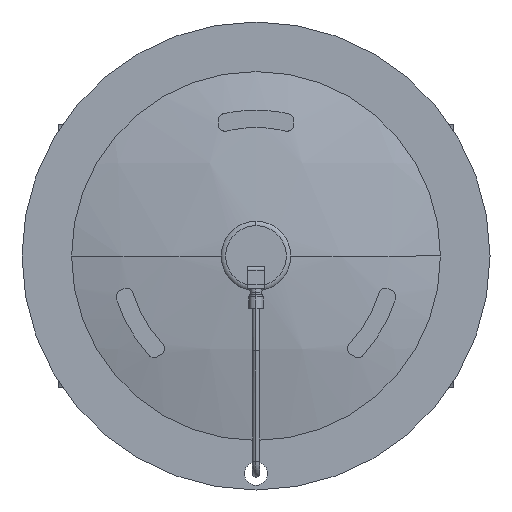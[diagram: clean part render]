
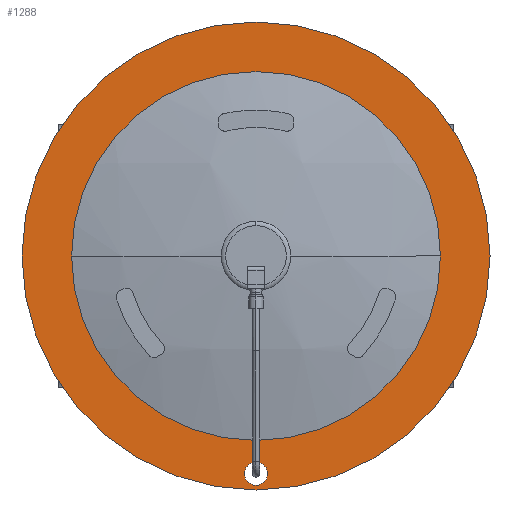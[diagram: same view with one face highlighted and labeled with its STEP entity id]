
A CAD part, front view. The second image highlights one B-rep face of the part: STEP entity #1288.
In plain terms, the highlighted planar face has unit normal (0, -1, 0).
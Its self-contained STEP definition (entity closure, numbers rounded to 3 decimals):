
#278 = CIRCLE ( 'NONE', #8124, 10. ) ;
#292 = CARTESIAN_POINT ( 'NONE',  ( -200.5, -271.3, 0. ) ) ;
#299 = AXIS2_PLACEMENT_3D ( 'NONE', #6845, #6979, #11181 ) ;
#1012 = ORIENTED_EDGE ( 'NONE', *, *, #4031, .F. ) ;
#1288 = ADVANCED_FACE ( 'NONE', ( #4775, #11217, #9892 ), #10099, .T. ) ;
#1804 = DIRECTION ( 'NONE',  ( 0., 1., 0. ) ) ;
#1856 = CIRCLE ( 'NONE', #2074, 200.5 ) ;
#2074 = AXIS2_PLACEMENT_3D ( 'NONE', #12976, #5283, #2267 ) ;
#2240 = VERTEX_POINT ( 'NONE', #7412 ) ;
#2267 = DIRECTION ( 'NONE',  ( 0., 0., 1. ) ) ;
#2875 = CIRCLE ( 'NONE', #10714, 200.5 ) ;
#3110 = DIRECTION ( 'NONE',  ( 0., 0., -1. ) ) ;
#3185 = CARTESIAN_POINT ( 'NONE',  ( 0., -271.3, 0. ) ) ;
#3318 = DIRECTION ( 'NONE',  ( 0., -1., 0. ) ) ;
#4012 = CIRCLE ( 'NONE', #11848, 158.018 ) ;
#4031 = EDGE_CURVE ( 'NONE', #4219, #5466, #2875, .T. ) ;
#4219 = VERTEX_POINT ( 'NONE', #9265 ) ;
#4296 = ORIENTED_EDGE ( 'NONE', *, *, #13014, .F. ) ;
#4516 = CARTESIAN_POINT ( 'NONE',  ( 0., -271.3, 0. ) ) ;
#4595 = AXIS2_PLACEMENT_3D ( 'NONE', #292, #6812, #11152 ) ;
#4775 = FACE_BOUND ( 'NONE', #5891, .T. ) ;
#5283 = DIRECTION ( 'NONE',  ( 0., 1., 0. ) ) ;
#5329 = CARTESIAN_POINT ( 'NONE',  ( 0., -271.3, -196.5 ) ) ;
#5466 = VERTEX_POINT ( 'NONE', #12932 ) ;
#5581 = EDGE_CURVE ( 'NONE', #2240, #9338, #4012, .T. ) ;
#5891 = EDGE_LOOP ( 'NONE', ( #4296, #7551 ) ) ;
#6687 = ORIENTED_EDGE ( 'NONE', *, *, #5581, .F. ) ;
#6697 = DIRECTION ( 'NONE',  ( 0., -1., 0. ) ) ;
#6812 = DIRECTION ( 'NONE',  ( 0., -1., 0. ) ) ;
#6845 = CARTESIAN_POINT ( 'NONE',  ( 0., -271.3, -186.5 ) ) ;
#6904 = EDGE_CURVE ( 'NONE', #8081, #10744, #10609, .T. ) ;
#6979 = DIRECTION ( 'NONE',  ( 0., -1., 0. ) ) ;
#7259 = EDGE_CURVE ( 'NONE', #9338, #2240, #9451, .T. ) ;
#7412 = CARTESIAN_POINT ( 'NONE',  ( 158.018, -271.3, 0. ) ) ;
#7464 = DIRECTION ( 'NONE',  ( 0., 0., -1. ) ) ;
#7551 = ORIENTED_EDGE ( 'NONE', *, *, #6904, .F. ) ;
#7815 = DIRECTION ( 'NONE',  ( 0., 0., -1. ) ) ;
#8081 = VERTEX_POINT ( 'NONE', #5329 ) ;
#8124 = AXIS2_PLACEMENT_3D ( 'NONE', #8297, #3318, #3110 ) ;
#8297 = CARTESIAN_POINT ( 'NONE',  ( 0., -271.3, -186.5 ) ) ;
#8437 = DIRECTION ( 'NONE',  ( 0., -1., 0. ) ) ;
#9218 = AXIS2_PLACEMENT_3D ( 'NONE', #3185, #8437, #7464 ) ;
#9224 = DIRECTION ( 'NONE',  ( 0., 0., 1. ) ) ;
#9265 = CARTESIAN_POINT ( 'NONE',  ( 0., -271.3, -200.5 ) ) ;
#9338 = VERTEX_POINT ( 'NONE', #12057 ) ;
#9451 = CIRCLE ( 'NONE', #9218, 158.018 ) ;
#9892 = FACE_OUTER_BOUND ( 'NONE', #10894, .T. ) ;
#10099 = PLANE ( 'NONE',  #4595 ) ;
#10303 = CARTESIAN_POINT ( 'NONE',  ( 0., -271.3, -176.5 ) ) ;
#10609 = CIRCLE ( 'NONE', #299, 10. ) ;
#10714 = AXIS2_PLACEMENT_3D ( 'NONE', #12385, #1804, #9224 ) ;
#10744 = VERTEX_POINT ( 'NONE', #10303 ) ;
#10794 = EDGE_LOOP ( 'NONE', ( #11796, #6687 ) ) ;
#10894 = EDGE_LOOP ( 'NONE', ( #13785, #1012 ) ) ;
#11152 = DIRECTION ( 'NONE',  ( 0., 0., -1. ) ) ;
#11181 = DIRECTION ( 'NONE',  ( 0., 0., -1. ) ) ;
#11217 = FACE_BOUND ( 'NONE', #10794, .T. ) ;
#11796 = ORIENTED_EDGE ( 'NONE', *, *, #7259, .F. ) ;
#11848 = AXIS2_PLACEMENT_3D ( 'NONE', #4516, #6697, #7815 ) ;
#12057 = CARTESIAN_POINT ( 'NONE',  ( -158.018, -271.3, 0. ) ) ;
#12385 = CARTESIAN_POINT ( 'NONE',  ( 0., -271.3, 0. ) ) ;
#12932 = CARTESIAN_POINT ( 'NONE',  ( 0., -271.3, 200.5 ) ) ;
#12976 = CARTESIAN_POINT ( 'NONE',  ( 0., -271.3, 0. ) ) ;
#13014 = EDGE_CURVE ( 'NONE', #10744, #8081, #278, .T. ) ;
#13029 = EDGE_CURVE ( 'NONE', #5466, #4219, #1856, .T. ) ;
#13785 = ORIENTED_EDGE ( 'NONE', *, *, #13029, .F. ) ;
